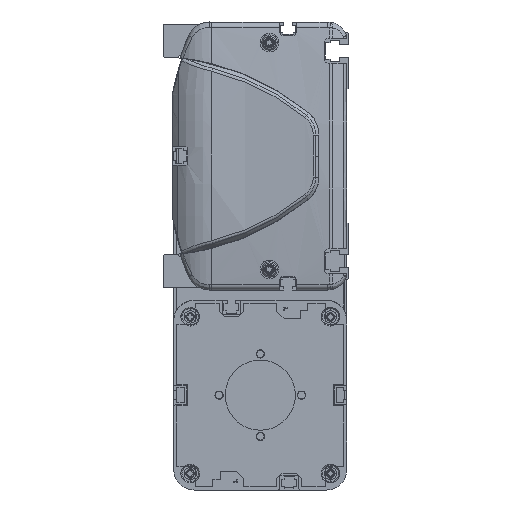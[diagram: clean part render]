
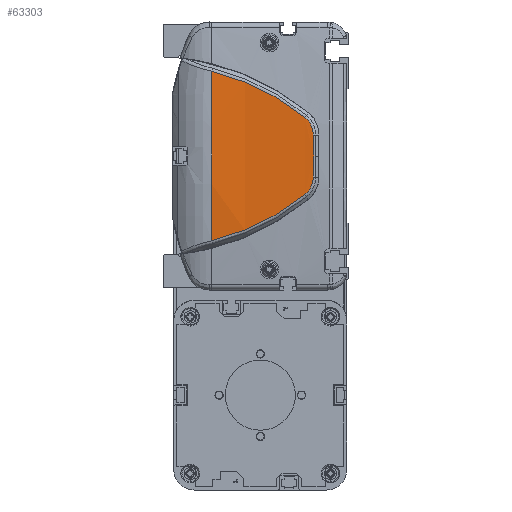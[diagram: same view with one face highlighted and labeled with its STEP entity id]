
A CAD part, left-side view. The second image highlights one B-rep face of the part: STEP entity #63303.
In plain terms, the highlighted cylindrical face has radius 500 mm (diameter 1000 mm), a partial arc.
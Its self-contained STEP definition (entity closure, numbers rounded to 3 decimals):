
#59544=CARTESIAN_POINT('',(-614.,66.962,0.));
#59545=DIRECTION('',(0.,-1.,0.));
#59546=DIRECTION('',(-0.997,0.,0.082));
#59547=AXIS2_PLACEMENT_3D('',#59544,#59545,#59546);
#60421=CARTESIAN_POINT('',(-1113.648,21.913,
-18.759));
#60422=CARTESIAN_POINT('',(-1113.449,28.504,
-24.058));
#60423=CARTESIAN_POINT('',(-1112.934,42.795,
-33.27));
#60424=CARTESIAN_POINT('',(-1112.471,58.756,
-39.127));
#60425=CARTESIAN_POINT('',(-1112.306,66.962,
-41.121));
#60427=CARTESIAN_POINT('',(-1112.306,66.962,
41.121));
#60428=CARTESIAN_POINT('',(-1112.471,58.756,
39.127));
#60429=CARTESIAN_POINT('',(-1112.934,42.795,
33.27));
#60430=CARTESIAN_POINT('',(-1113.449,28.504,
24.058));
#60431=CARTESIAN_POINT('',(-1113.648,21.913,
18.759));
#60433=CARTESIAN_POINT('',(-1113.648,21.913,
18.759));
#60434=CARTESIAN_POINT('',(-1113.686,20.635,
17.736));
#60435=CARTESIAN_POINT('',(-1113.779,18.536,
15.107));
#60436=CARTESIAN_POINT('',(-1113.863,17.752,
11.827));
#60437=CARTESIAN_POINT('',(-1113.896,17.724,
10.178));
#60439=CARTESIAN_POINT('',(-1113.896,17.724,
10.178));
#60440=CARTESIAN_POINT('',(-1113.92,17.707,
9.025));
#60441=CARTESIAN_POINT('',(-1113.959,17.667,
6.734));
#60442=CARTESIAN_POINT('',(-1113.993,17.58,
3.34));
#60443=CARTESIAN_POINT('',(-1114.,17.498,
1.108));
#60444=CARTESIAN_POINT('',(-1114.,17.449,
0.));
#60446=CARTESIAN_POINT('',(-1114.,17.449,
0.));
#60447=CARTESIAN_POINT('',(-1114.,17.498,
-1.108));
#60448=CARTESIAN_POINT('',(-1113.993,17.58,
-3.34));
#60449=CARTESIAN_POINT('',(-1113.959,17.667,
-6.733));
#60450=CARTESIAN_POINT('',(-1113.92,17.707,
-9.027));
#60451=CARTESIAN_POINT('',(-1113.896,17.724,
-10.18));
#60453=CARTESIAN_POINT('',(-1113.896,17.724,
-10.18));
#60454=CARTESIAN_POINT('',(-1113.863,17.752,
-11.828));
#60455=CARTESIAN_POINT('',(-1113.779,18.537,
-15.109));
#60456=CARTESIAN_POINT('',(-1113.686,20.635,
-17.736));
#60457=CARTESIAN_POINT('',(-1113.648,21.913,
-18.759));
#61123=VERTEX_POINT('',#60421);
#61124=VERTEX_POINT('',#60425);
#61125=CARTESIAN_POINT('',(-1112.306,66.962,
41.121));
#61126=VERTEX_POINT('',#61125);
#61127=VERTEX_POINT('',#60431);
#61128=VERTEX_POINT('',#60437);
#61129=VERTEX_POINT('',#60444);
#61130=VERTEX_POINT('',#60451);
#63284=CARTESIAN_POINT('',(-614.,8.606,0.));
#63285=DIRECTION('',(0.,1.,0.));
#63286=DIRECTION('',(1.,0.,0.));
#63287=AXIS2_PLACEMENT_3D('',#63284,#63285,#63286);
#63288=CYLINDRICAL_SURFACE('',#63287,500.);
#63290=ORIENTED_EDGE('',*,*,#63289,.T.);
#63291=ORIENTED_EDGE('',*,*,#61924,.F.);
#63293=ORIENTED_EDGE('',*,*,#63292,.T.);
#63295=ORIENTED_EDGE('',*,*,#63294,.T.);
#63297=ORIENTED_EDGE('',*,*,#63296,.T.);
#63299=ORIENTED_EDGE('',*,*,#63298,.T.);
#63300=ORIENTED_EDGE('',*,*,#63274,.T.);
#63301=EDGE_LOOP('',(#63290,#63291,#63293,#63295,#63297,#63299,#63300));
#63302=FACE_OUTER_BOUND('',#63301,.F.);
#63303=ADVANCED_FACE('',(#63302),#63288,.T.);
#59548=CIRCLE('',#59547,500.);
#60426=B_SPLINE_CURVE_WITH_KNOTS('',3,(#60421,#60422,#60423,#60424,#60425),
.UNSPECIFIED.,.F.,.F.,(4,1,4),(0.,0.5,1.),.UNSPECIFIED.);
#60432=B_SPLINE_CURVE_WITH_KNOTS('',3,(#60427,#60428,#60429,#60430,#60431),
.UNSPECIFIED.,.F.,.F.,(4,1,4),(0.,0.5,1.),.UNSPECIFIED.);
#60438=B_SPLINE_CURVE_WITH_KNOTS('',3,(#60433,#60434,#60435,#60436,#60437),
.UNSPECIFIED.,.F.,.F.,(4,1,4),(0.,0.5,1.),.UNSPECIFIED.);
#60445=B_SPLINE_CURVE_WITH_KNOTS('',3,(#60439,#60440,#60441,#60442,#60443,
#60444),.UNSPECIFIED.,.F.,.F.,(4,1,1,4),(0.,0.333,
0.667,1.),.UNSPECIFIED.);
#60452=B_SPLINE_CURVE_WITH_KNOTS('',3,(#60446,#60447,#60448,#60449,#60450,
#60451),.UNSPECIFIED.,.F.,.F.,(4,1,1,4),(0.,0.333,
0.667,1.),.UNSPECIFIED.);
#60458=B_SPLINE_CURVE_WITH_KNOTS('',3,(#60453,#60454,#60455,#60456,#60457),
.UNSPECIFIED.,.F.,.F.,(4,1,4),(0.,0.5,1.),.UNSPECIFIED.);
#61924=EDGE_CURVE('',#61126,#61124,#59548,.T.);
#63274=EDGE_CURVE('',#61130,#61123,#60458,.T.);
#63289=EDGE_CURVE('',#61123,#61124,#60426,.T.);
#63292=EDGE_CURVE('',#61126,#61127,#60432,.T.);
#63294=EDGE_CURVE('',#61127,#61128,#60438,.T.);
#63296=EDGE_CURVE('',#61128,#61129,#60445,.T.);
#63298=EDGE_CURVE('',#61129,#61130,#60452,.T.);
